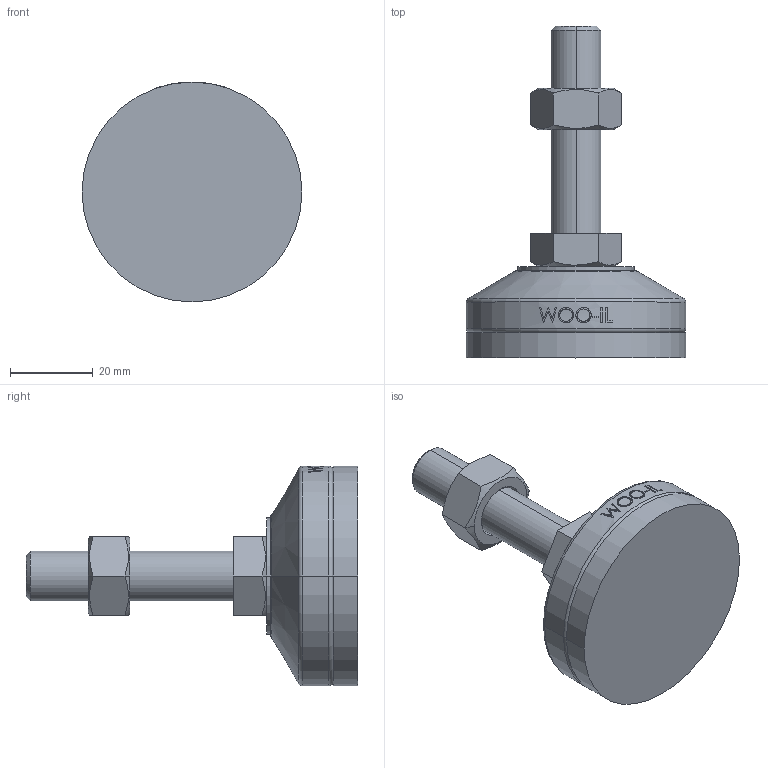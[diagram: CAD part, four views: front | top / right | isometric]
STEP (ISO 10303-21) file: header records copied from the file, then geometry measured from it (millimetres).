
FILE_DESCRIPTION (( 'STEP AP214' ), '1' );
FILE_NAME ('MFR53-M12-50.step', '2021-01-13T05:35:27', ( '' ), ( '' ), 'SwSTEP 2.0', 'SolidWorks 2019', '' );
FILE_SCHEMA (( 'AUTOMOTIVE_DESIGN' ));
Length unit declared in the file: millimetre
Products named in the file (2): MFR53-M12-50
Bounding box: 53 x 80 x 53 mm (x, y, z)
Volume: 51020.9 mm3; surface area: 15750.2 mm2
Topology: 4 solids, 4 shells, 103 faces, 235 edges, 150 vertices
Faces by surface type: plane 49, cylinder 18, bspline 16, cone 14, torus 6
Entity records: 4309 total; most frequent: CARTESIAN_POINT 2036, ORIENTED_EDGE 470, DIRECTION 417, EDGE_CURVE 235, AXIS2_PLACEMENT_3D 159, VERTEX_POINT 150, EDGE_LOOP 115, ADVANCED_FACE 103
